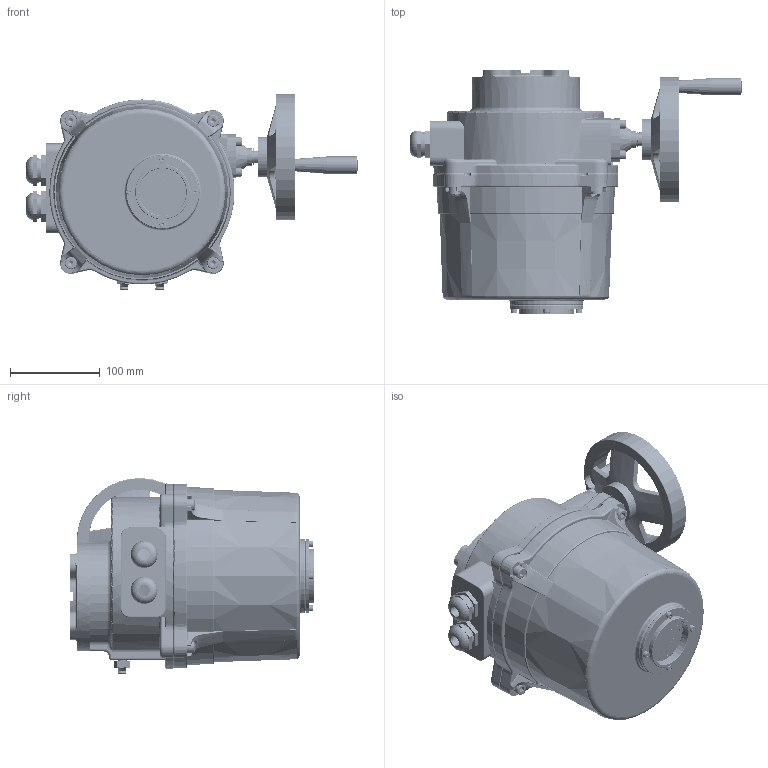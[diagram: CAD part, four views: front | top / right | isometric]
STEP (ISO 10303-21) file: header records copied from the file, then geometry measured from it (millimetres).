
FILE_DESCRIPTION (( 'STEP AP203' ), '1' );
FILE_NAME ('VTM-3zongzhuang.STEP', '2021-01-20T06:06:04', ( '' ), ( '' ), 'SwSTEP 2.0', 'SolidWorks 2018', '' );
FILE_SCHEMA (( 'CONFIG_CONTROL_DESIGN' ));
Length unit declared in the file: millimetre
Products named in the file (26): STWN14; 3#奻裔猾啣; VTM-3恘裝; socket head cap screw_iso_ISO 4762 M6 x 16 --- 16S; hex socket set screws with flat point gb_GB_FASTENER_SCREWS_HSFP M10X50-S; KES4-16; 產薛覦攫; hex nuts, style 1-grades ab gb_GB_FASTENER_NUT_SNAB1 M10-N; 3#奻裔_沓喃; socket head cap screw_iso_ISO 4762 M4 x 8 --- 8N; o-rings series a gb_GB-T 3452.1 90x3.55-A; 忒謫菜え; VTM-3zongzhuang; hexagon socket head cap screws gb_GB_FASTENER_SCREWS_HSHCS M6X20-S; 粣郋_17x17; VTM3-F07-10(1)(1); VTM-3恘裝裔; hexagon socket head cap screws gb_GB_FASTENER_SCREWS_HSHCS M8X30-S; VTM-3怀堤粣; [盞沭忒謫14; GB╱T 301-1995[推力球轴承[51000]51102]_51102; hexagon socket head cap screws gb_GB_FASTENER_SCREWS_HSHCS M6X16-S; G3-4滅阨諉芛; VTM-3狟褲_沓喃; o-rings series a gb_GB-T 3452.1 185x2.65-A; O型圈外90x3.1
Assembly tree (44 placements, depth 2):
  VTM-3zongzhuang
    VTM-3狟褲_沓喃
    3#奻裔_沓喃
    KES4-16
    STWN14
    VTM3-F07-10(1)(1)
    VTM-3怀堤粣
    VTM-3恘裝
    VTM-3恘裝裔
    G3-4滅阨諉芛  x2
    GB╱T 301-1995[推力球轴承[51000]51102]_51102
    產薛覦攫
    o-rings series a gb_GB-T 3452.1 185x2.65-A
    o-rings series a gb_GB-T 3452.1 90x3.55-A
    hex socket set screws with flat point gb_GB_FASTENER_SCREWS_HSFP M10X50-S  x2
    hex nuts, style 1-grades ab gb_GB_FASTENER_NUT_SNAB1 M10-N  x2
    忒謫菜え
    socket head cap screw_iso_ISO 4762 M6 x 16 --- 16S
    3#奻裔猾啣
    socket head cap screw_iso_ISO 4762 M4 x 8 --- 8N  x4
    hexagon socket head cap screws gb_GB_FASTENER_SCREWS_HSHCS M6X20-S  x8
    O型圈外90x3.1
    hexagon socket head cap screws gb_GB_FASTENER_SCREWS_HSHCS M6X16-S  x4
    [盞沭忒謫14
    hexagon socket head cap screws gb_GB_FASTENER_SCREWS_HSHCS M8X30-S  x4
    粣郋_17x17
Bounding box: 369.57 x 271.7 x 217.98 mm (x, y, z)
Volume: 7255588.2 mm3; surface area: 572046.7 mm2
Topology: 45 solids, 45 shells, 7605 faces, 17620 edges, 10201 vertices
Faces by surface type: cone 2887, cylinder 1973, plane 1381, bspline 1064, torus 247, sphere 53
Entity records: 202480 total; most frequent: CARTESIAN_POINT 100388, ORIENTED_EDGE 22002, DIRECTION 18527, EDGE_CURVE 11001, AXIS2_PLACEMENT_3D 6796, VERTEX_POINT 6791, LINE 4935, VECTOR 4935
